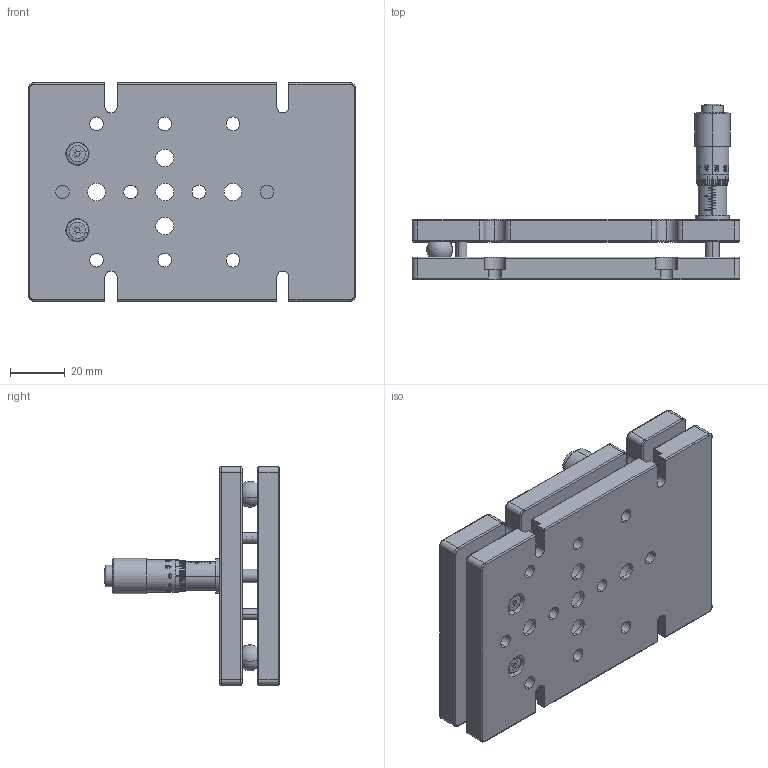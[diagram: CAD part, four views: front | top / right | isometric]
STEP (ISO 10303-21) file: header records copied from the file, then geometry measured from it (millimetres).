
FILE_DESCRIPTION (( 'STEP AP203' ), '1' );
FILE_NAME ('M-IS-1.STEP', '2022-09-21T07:41:55', ( '¦K¬P' ), ( '' ), 'SwSTEP 2.0', 'SolidWorks 2019', '' );
FILE_SCHEMA (( 'CONFIG_CONTROL_DESIGN' ));
Length unit declared in the file: millimetre
Products named in the file (15): M3-皿頭6L; MER-13後管(無壓花); 碟簧-3.5對; MER-13前管; IS-1-MIC墊環; M-IS-1-(2)-V1.0; 碟簧片; M-IS-1; M-IS-1-(1)-V1.0; D9.5鋼珠; 碟簧銅棒-14L; O2-7.8L PIN
Assembly tree (47 placements, depth 3):
  M-IS-1
    M-IS-1-(2)-V1.0
    M-IS-1-(1)-V1.0
    D9.5鋼珠  x2
    O2-7.8L PIN  x2
    MER-13後管(無壓花)
    MER-13前管
    IS-1-MIC墊環
    碟簧-3.5對
      碟簧片  x7
    碟簧銅棒-14L  x2
    M3-皿頭6L  x4
    碟簧-3.5對
      碟簧片  x7
    碟簧-3.5對
      碟簧片  x7
    碟簧-3.5對
      碟簧片  x7
Bounding box: 120 x 64.3 x 80 mm (x, y, z)
Volume: 144909.2 mm3; surface area: 58263.7 mm2
Topology: 43 solids, 43 shells, 1401 faces, 3471 edges, 2210 vertices
Faces by surface type: cylinder 448, plane 435, bspline 304, torus 164, cone 38, sphere 12
Entity records: 51594 total; most frequent: CARTESIAN_POINT 24665, ORIENTED_EDGE 5398, DIRECTION 4510, EDGE_CURVE 2699, VERTEX_POINT 1764, AXIS2_PLACEMENT_3D 1674, EDGE_LOOP 1215, VECTOR 1162
